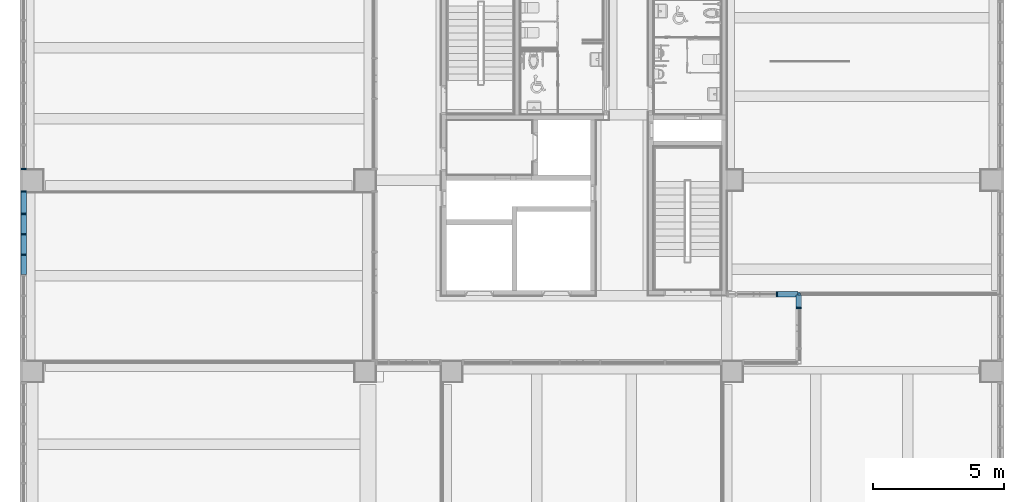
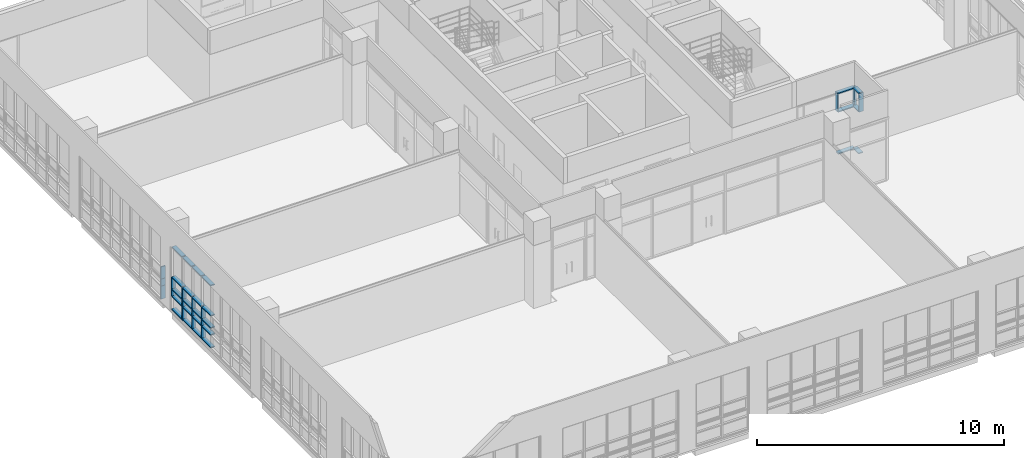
# One storey, part 18 of 74: 44 members, 4 elements without a shape of their own.
"""IFC2X3 building model written with IfcOpenShell, lengths in millimetres."""

from ifc_helpers import new_model, entity, si_unit, converted_unit, derived_unit, direction, frame, origin, origin_2d_with_axis, place, context, subcontext, project, spatial, rectangle, extrude, source, transform, mapped, material, type_object, type_shapes, element, aggregate, save


model = new_model("IFC2X3")

# Units and contexts
model_context = context("Model", 3, precision=0.01, world=origin(), true_north=direction((6.123031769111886e-17, 1.0)))
body_context = subcontext(model_context, "Body", "Model", "MODEL_VIEW")
ifc_project = project(units=[si_unit("LENGTHUNIT", "METRE", prefix="MILLI"), si_unit("AREAUNIT", "SQUARE_METRE"), si_unit("VOLUMEUNIT", "CUBIC_METRE"), converted_unit("PLANEANGLEUNIT", "DEGREE", entity("IfcRatioMeasure", 0.017453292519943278), si_unit("PLANEANGLEUNIT", "RADIAN"), dimensions=[0, 0, 0, 0, 0, 0, 0]), si_unit("MASSUNIT", "GRAM", prefix="KILO"), derived_unit("MASSDENSITYUNIT", [(si_unit("MASSUNIT", "GRAM", prefix="KILO"), 1), (si_unit("LENGTHUNIT", "METRE"), -3)]), derived_unit("MOMENTOFINERTIAUNIT", [(si_unit("LENGTHUNIT", "METRE"), 4)]), si_unit("TIMEUNIT", "SECOND"), si_unit("FREQUENCYUNIT", "HERTZ"), si_unit("THERMODYNAMICTEMPERATUREUNIT", "DEGREE_CELSIUS"), derived_unit("THERMALTRANSMITTANCEUNIT", [(si_unit("MASSUNIT", "GRAM", prefix="KILO"), 1), (si_unit("THERMODYNAMICTEMPERATUREUNIT", "KELVIN"), -1), (si_unit("TIMEUNIT", "SECOND"), -3)]), derived_unit("VOLUMETRICFLOWRATEUNIT", [(si_unit("LENGTHUNIT", "METRE"), 3), (si_unit("TIMEUNIT", "SECOND"), -1)]), derived_unit("MASSFLOWRATEUNIT", [(si_unit("MASSUNIT", "GRAM", prefix="KILO"), 1), (si_unit("TIMEUNIT", "SECOND"), -1)]), derived_unit("ROTATIONALFREQUENCYUNIT", [(si_unit("TIMEUNIT", "SECOND"), -1)]), si_unit("ELECTRICCURRENTUNIT", "AMPERE"), si_unit("ELECTRICVOLTAGEUNIT", "VOLT"), si_unit("POWERUNIT", "WATT"), si_unit("FORCEUNIT", "NEWTON", prefix="KILO"), si_unit("ILLUMINANCEUNIT", "LUX"), si_unit("LUMINOUSFLUXUNIT", "LUMEN"), si_unit("LUMINOUSINTENSITYUNIT", "CANDELA"), derived_unit("USERDEFINED", [(si_unit("MASSUNIT", "GRAM", prefix="KILO"), -1), (si_unit("LENGTHUNIT", "METRE"), -2), (si_unit("TIMEUNIT", "SECOND"), 3), (si_unit("LUMINOUSFLUXUNIT", "LUMEN"), 1)]), derived_unit("SOUNDPOWERUNIT", [(si_unit("MASSUNIT", "GRAM", prefix="KILO"), 1), (si_unit("LENGTHUNIT", "METRE"), 2), (si_unit("TIMEUNIT", "SECOND"), -3)]), derived_unit("SOUNDPRESSUREUNIT", [(si_unit("MASSUNIT", "GRAM", prefix="KILO"), 1), (si_unit("LENGTHUNIT", "METRE"), -1), (si_unit("TIMEUNIT", "SECOND"), -2)]), derived_unit("LINEARVELOCITYUNIT", [(si_unit("LENGTHUNIT", "METRE"), 1), (si_unit("TIMEUNIT", "SECOND"), -1)]), si_unit("PRESSUREUNIT", "PASCAL"), derived_unit("USERDEFINED", [(si_unit("LENGTHUNIT", "METRE"), -2), (si_unit("MASSUNIT", "GRAM", prefix="KILO"), 1), (si_unit("TIMEUNIT", "SECOND"), -2)]), derived_unit("LINEARFORCEUNIT", [(si_unit("MASSUNIT", "GRAM", prefix="KILO"), 1), (si_unit("LENGTHUNIT", "METRE"), 1), (si_unit("TIMEUNIT", "SECOND"), -2), (si_unit("LENGTHUNIT", "METRE"), -1)]), derived_unit("PLANARFORCEUNIT", [(si_unit("MASSUNIT", "GRAM", prefix="KILO"), 1), (si_unit("LENGTHUNIT", "METRE"), 1), (si_unit("TIMEUNIT", "SECOND"), -2), (si_unit("LENGTHUNIT", "METRE"), -2)])], contexts=[model_context])

# Site, building, storey
site_placement = place(None, frame((-14167.972527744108, -657.2125860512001, 0.0)))
site = spatial("IfcSite", under=ifc_project, at=site_placement, Name="Default", CompositionType="ELEMENT")
building_placement = place(site_placement, origin())
building = spatial("IfcBuilding", under=site, at=building_placement, Name="Sample Building", CompositionType="ELEMENT")
storey_placement = place(building_placement, frame((0.0, 0.0, 4800.0)))
storey = spatial("IfcBuildingStorey", under=building, at=storey_placement, Name="지상 2층", CompositionType="ELEMENT", Elevation=4800.000000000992)

# Curtain wall, member
curtain_wall_type = type_object("IfcCurtainWallType", Name="커튼월:CW112-스테인리스 스틸 커튼월", PredefinedType="NOTDEFINED")
curtain_wall_1_placement = place(storey_placement, frame((0.0, 0.0, -4800.0)))
curtain_wall_1 = element("IfcCurtainWall", 1, at=curtain_wall_1_placement, inside=storey, type_object=curtain_wall_type, Name="커튼월:CW112-스테인리스 스틸 커튼월", ObjectType="커튼월:CW112-스테인리스 스틸 커튼월")
ifc_material = material(Name="<Unnamed>")
member_type_1 = type_object("IfcMemberType", Name="직사각형 멀리언:CW200-직사각형 멀리언 50x200mm", PredefinedType="MULLION", material=ifc_material)
shared_shape_1 = source(origin(), body_context, "Body", "SweptSolid", [
    extrude(rectangle(XDim=200.0, YDim=50.0, at=origin_2d_with_axis()), frame((-25.0, 0.0, -650.0), z_axis=(0.0, 0.0, 1.0), x_axis=(0.0, -1.0, 0.0)), (0.0, 0.0, 1.0), 650.0000000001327),
])
type_shapes(member_type_1, [shared_shape_1])
member_1_placement = place(curtain_wall_1_placement, frame((14129.839654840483, 20357.19489124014, 4880.0), z_axis=(0.0, 0.0, -1.0), x_axis=(0.0, -1.0, 0.0)))
member_1 = element("IfcMember", 2, at=member_1_placement, type_object=member_type_1, material=ifc_material, Name="직사각형 멀리언:CW200-직사각형 멀리언 50x200mm", ObjectType="직사각형 멀리언:CW200-직사각형 멀리언 50x200mm", context=body_context, shape_type="MappedRepresentation", body=[
    mapped(shared_shape_1, transform((0.0, 0.0, 0.0), scale=1.0)),
])

# Curtain wall, members
curtain_wall_2_placement = place(storey_placement, frame((0.0, 0.0, -4800.0)))
curtain_wall_2 = element("IfcCurtainWall", 3, at=curtain_wall_2_placement, inside=storey, type_object=curtain_wall_type, Name="커튼월:CW112-스테인리스 스틸 커튼월", ObjectType="커튼월:CW112-스테인리스 스틸 커튼월")
member_type_2 = type_object("IfcMemberType", Name="직사각형 멀리언:CW200-직사각형 멀리언 50x200mm", PredefinedType="MULLION", material=ifc_material)
shared_shape_2 = source(origin(), body_context, "Body", "SweptSolid", [
    extrude(rectangle(XDim=200.0, YDim=50.0, at=origin_2d_with_axis()), frame((0.0, 0.0, -650.0), z_axis=(0.0, 0.0, 1.0), x_axis=(0.0, -1.0, 0.0)), (0.0, 0.0, 1.0), 650.0000000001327),
])
type_shapes(member_type_2, [shared_shape_2])
member_2_placement = place(curtain_wall_2_placement, frame((14130.472570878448, 18675.962275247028, 4880.0), z_axis=(0.0, 0.0, -1.0), x_axis=(0.0, -1.0, 0.0)))
member_2 = element("IfcMember", 4, at=member_2_placement, type_object=member_type_2, material=ifc_material, Name="직사각형 멀리언:CW200-직사각형 멀리언 50x200mm", ObjectType="직사각형 멀리언:CW200-직사각형 멀리언 50x200mm", context=body_context, shape_type="MappedRepresentation", body=[
    mapped(shared_shape_2, transform((0.0, 0.0, 0.0), scale=1.0)),
])
member_3_placement = place(curtain_wall_2_placement, frame((14130.472570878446, 17894.712275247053, 4880.0), z_axis=(0.0, 0.0, -1.0), x_axis=(0.0, -1.0, 0.0)))
member_3 = element("IfcMember", 5, at=member_3_placement, type_object=member_type_2, material=ifc_material, Name="직사각형 멀리언:CW200-직사각형 멀리언 50x200mm", ObjectType="직사각형 멀리언:CW200-직사각형 멀리언 50x200mm", context=body_context, shape_type="MappedRepresentation", body=[
    mapped(shared_shape_2, transform((0.0, 0.0, 0.0), scale=1.0)),
])
member_4_placement = place(curtain_wall_2_placement, frame((14130.472570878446, 17113.46227524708, 4880.0), z_axis=(0.0, 0.0, -1.0), x_axis=(0.0, -1.0, 0.0)))
member_4 = element("IfcMember", 6, at=member_4_placement, type_object=member_type_2, material=ifc_material, Name="직사각형 멀리언:CW200-직사각형 멀리언 50x200mm", ObjectType="직사각형 멀리언:CW200-직사각형 멀리언 50x200mm", context=body_context, shape_type="MappedRepresentation", body=[
    mapped(shared_shape_2, transform((0.0, 0.0, 0.0), scale=1.0)),
])
member_type_3 = type_object("IfcMemberType", Name="직사각형 멀리언:CW200-직사각형 멀리언 50x200mm", PredefinedType="MULLION", material=ifc_material)
shared_shape_3 = source(origin(), body_context, "Body", "SweptSolid", [
    extrude(rectangle(XDim=200.0, YDim=50.0, at=origin_2d_with_axis()), frame((-25.0, 0.0, -600.0), z_axis=(0.0, 0.0, 1.0), x_axis=(0.0, -1.0, 0.0)), (0.0, 0.0, 1.0), 600.0),
])
type_shapes(member_type_3, [shared_shape_3])
member_5_placement = place(curtain_wall_2_placement, frame((14130.472570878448, 19557.212307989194, 6480.0), z_axis=(0.0, 0.0, 1.0), x_axis=(0.0, 1.0, 0.0)))
member_5 = element("IfcMember", 7, at=member_5_placement, type_object=member_type_3, material=ifc_material, Name="직사각형 멀리언:CW200-직사각형 멀리언 50x200mm", ObjectType="직사각형 멀리언:CW200-직사각형 멀리언 50x200mm", context=body_context, shape_type="MappedRepresentation", body=[
    mapped(shared_shape_3, transform((0.0, 0.0, 0.0), scale=1.0)),
])

# Member
member_type_4 = type_object("IfcMemberType", Name="직사각형 멀리언:CW200-직사각형 멀리언 50x200mm", PredefinedType="MULLION", material=ifc_material)
shared_shape_4 = source(origin(), body_context, "Body", "SweptSolid", [
    extrude(rectangle(XDim=200.0, YDim=50.0, at=origin_2d_with_axis()), frame((-25.0, 0.0, -600.0), z_axis=(0.0, 0.0, 1.0), x_axis=(0.0, -1.0, 0.0)), (0.0, 0.0, 1.0), 600.0),
])
type_shapes(member_type_4, [shared_shape_4])
member_6_placement = place(curtain_wall_1_placement, frame((14129.839654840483, 20357.19489124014, 5880.0), z_axis=(0.0, 0.0, -1.0), x_axis=(0.0, -1.0, 0.0)))
member_6 = element("IfcMember", 8, at=member_6_placement, type_object=member_type_4, material=ifc_material, Name="직사각형 멀리언:CW200-직사각형 멀리언 50x200mm", ObjectType="직사각형 멀리언:CW200-직사각형 멀리언 50x200mm", context=body_context, shape_type="MappedRepresentation", body=[
    mapped(shared_shape_4, transform((0.0, 0.0, 0.0), scale=1.0)),
])

member_type_5 = type_object("IfcMemberType", Name="직사각형 멀리언:CW200-직사각형 멀리언 50x200mm", PredefinedType="MULLION", material=ifc_material)
shared_shape_5 = source(origin(), body_context, "Body", "SweptSolid", [
    extrude(rectangle(XDim=200.0, YDim=50.0, at=origin_2d_with_axis()), frame((-25.0, 0.0, -350.0), z_axis=(0.0, 0.0, 1.0), x_axis=(0.0, -1.0, 0.0)), (0.0, 0.0, 1.0), 349.9999999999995),
])
type_shapes(member_type_5, [shared_shape_5])
member_7_placement = place(curtain_wall_2_placement, frame((14130.472570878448, 19557.212307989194, 5880.0), z_axis=(0.0, 0.0, 1.0), x_axis=(0.0, 1.0, 0.0)))
member_7 = element("IfcMember", 9, at=member_7_placement, type_object=member_type_5, material=ifc_material, Name="직사각형 멀리언:CW200-직사각형 멀리언 50x200mm", ObjectType="직사각형 멀리언:CW200-직사각형 멀리언 50x200mm", context=body_context, shape_type="MappedRepresentation", body=[
    mapped(shared_shape_5, transform((0.0, 0.0, 0.0), scale=1.0)),
])

member_type_6 = type_object("IfcMemberType", Name="직사각형 멀리언:CW200-직사각형 멀리언 50x200mm", PredefinedType="MULLION", material=ifc_material)
shared_shape_6 = source(origin(), body_context, "Body", "SweptSolid", [
    extrude(rectangle(XDim=200.0, YDim=50.0, at=origin_2d_with_axis()), frame((0.0, 0.0, -600.0), z_axis=(0.0, 0.0, 1.0), x_axis=(0.0, -1.0, 0.0)), (0.0, 0.0, 1.0), 600.0),
])
type_shapes(member_type_6, [shared_shape_6])
member_8_placement = place(curtain_wall_2_placement, frame((14130.472570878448, 18675.962275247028, 5880.0), z_axis=(0.0, 0.0, -1.0), x_axis=(0.0, -1.0, 0.0)))
member_8 = element("IfcMember", 10, at=member_8_placement, type_object=member_type_6, material=ifc_material, Name="직사각형 멀리언:CW200-직사각형 멀리언 50x200mm", ObjectType="직사각형 멀리언:CW200-직사각형 멀리언 50x200mm", context=body_context, shape_type="MappedRepresentation", body=[
    mapped(shared_shape_6, transform((0.0, 0.0, 0.0), scale=1.0)),
])

member_9_placement = place(curtain_wall_2_placement, frame((14130.472570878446, 17894.712275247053, 5880.0), z_axis=(0.0, 0.0, -1.0), x_axis=(0.0, -1.0, 0.0)))
member_9 = element("IfcMember", 11, at=member_9_placement, type_object=member_type_6, material=ifc_material, Name="직사각형 멀리언:CW200-직사각형 멀리언 50x200mm", ObjectType="직사각형 멀리언:CW200-직사각형 멀리언 50x200mm", context=body_context, shape_type="MappedRepresentation", body=[
    mapped(shared_shape_6, transform((0.0, 0.0, 0.0), scale=1.0)),
])

member_10_placement = place(curtain_wall_2_placement, frame((14130.472570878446, 17113.46227524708, 5880.0), z_axis=(0.0, 0.0, -1.0), x_axis=(0.0, -1.0, 0.0)))
member_10 = element("IfcMember", 12, at=member_10_placement, type_object=member_type_6, material=ifc_material, Name="직사각형 멀리언:CW200-직사각형 멀리언 50x200mm", ObjectType="직사각형 멀리언:CW200-직사각형 멀리언 50x200mm", context=body_context, shape_type="MappedRepresentation", body=[
    mapped(shared_shape_6, transform((0.0, 0.0, 0.0), scale=1.0)),
])

member_type_7 = type_object("IfcMemberType", Name="직사각형 멀리언:CW200-직사각형 멀리언 50x200mm", PredefinedType="MULLION", material=ifc_material)
shared_shape_7 = source(origin(), body_context, "Body", "SweptSolid", [
    extrude(rectangle(XDim=200.0, YDim=50.0, at=origin_2d_with_axis()), frame((-25.0, 0.0, -350.0), z_axis=(0.0, 0.0, 1.0), x_axis=(0.0, -1.0, 0.0)), (0.0, 0.0, 1.0), 349.9999999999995),
])
type_shapes(member_type_7, [shared_shape_7])
member_11_placement = place(curtain_wall_1_placement, frame((14129.839654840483, 20357.19489124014, 5530.0), z_axis=(0.0, 0.0, -1.0), x_axis=(0.0, -1.0, 0.0)))
member_11 = element("IfcMember", 13, at=member_11_placement, type_object=member_type_7, material=ifc_material, Name="직사각형 멀리언:CW200-직사각형 멀리언 50x200mm", ObjectType="직사각형 멀리언:CW200-직사각형 멀리언 50x200mm", context=body_context, shape_type="MappedRepresentation", body=[
    mapped(shared_shape_7, transform((0.0, 0.0, 0.0), scale=1.0)),
])

aggregate(curtain_wall_1, [member_1, member_6, member_11])

member_type_8 = type_object("IfcMemberType", Name="직사각형 멀리언:CW200-직사각형 멀리언 50x200mm", PredefinedType="MULLION", material=ifc_material)
shared_shape_8 = source(origin(), body_context, "Body", "SweptSolid", [
    extrude(rectangle(XDim=200.0, YDim=50.0, at=origin_2d_with_axis()), frame((0.0, 0.0, -350.0), z_axis=(0.0, 0.0, 1.0), x_axis=(0.0, -1.0, 0.0)), (0.0, 0.0, 1.0), 349.9999999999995),
])
type_shapes(member_type_8, [shared_shape_8])
member_12_placement = place(curtain_wall_2_placement, frame((14130.472570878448, 18675.962275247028, 5530.0), z_axis=(0.0, 0.0, -1.0), x_axis=(0.0, -1.0, 0.0)))
member_12 = element("IfcMember", 14, at=member_12_placement, type_object=member_type_8, material=ifc_material, Name="직사각형 멀리언:CW200-직사각형 멀리언 50x200mm", ObjectType="직사각형 멀리언:CW200-직사각형 멀리언 50x200mm", context=body_context, shape_type="MappedRepresentation", body=[
    mapped(shared_shape_8, transform((0.0, 0.0, 0.0), scale=1.0)),
])

member_13_placement = place(curtain_wall_2_placement, frame((14130.472570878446, 17894.712275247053, 5530.0), z_axis=(0.0, 0.0, -1.0), x_axis=(0.0, -1.0, 0.0)))
member_13 = element("IfcMember", 15, at=member_13_placement, type_object=member_type_8, material=ifc_material, Name="직사각형 멀리언:CW200-직사각형 멀리언 50x200mm", ObjectType="직사각형 멀리언:CW200-직사각형 멀리언 50x200mm", context=body_context, shape_type="MappedRepresentation", body=[
    mapped(shared_shape_8, transform((0.0, 0.0, 0.0), scale=1.0)),
])

member_14_placement = place(curtain_wall_2_placement, frame((14130.472570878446, 17113.46227524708, 5530.0), z_axis=(0.0, 0.0, -1.0), x_axis=(0.0, -1.0, 0.0)))
member_14 = element("IfcMember", 16, at=member_14_placement, type_object=member_type_8, material=ifc_material, Name="직사각형 멀리언:CW200-직사각형 멀리언 50x200mm", ObjectType="직사각형 멀리언:CW200-직사각형 멀리언 50x200mm", context=body_context, shape_type="MappedRepresentation", body=[
    mapped(shared_shape_8, transform((0.0, 0.0, 0.0), scale=1.0)),
])

member_type_9 = type_object("IfcMemberType", Name="직사각형 멀리언:CW200-직사각형 멀리언 50x200mm", PredefinedType="MULLION", material=ifc_material)
shared_shape_9 = source(origin(), body_context, "Body", "SweptSolid", [
    extrude(rectangle(XDim=200.0, YDim=50.0, at=origin_2d_with_axis()), frame((-25.0, 0.0, -806.2500327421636), z_axis=(0.0, 0.0, 1.0), x_axis=(0.0, -1.0, 0.0)), (0.0, 0.0, 1.0), 806.2500327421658),
])
type_shapes(member_type_9, [shared_shape_9])
member_15_placement = place(curtain_wall_2_placement, frame((14130.472570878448, 19507.21230798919, 4880.0), z_axis=(0.0, 1.0, 0.0), x_axis=(0.0, 0.0, -1.0)))
member_15 = element("IfcMember", 17, at=member_15_placement, type_object=member_type_9, material=ifc_material, Name="직사각형 멀리언:CW200-직사각형 멀리언 50x200mm", ObjectType="직사각형 멀리언:CW200-직사각형 멀리언 50x200mm", context=body_context, shape_type="MappedRepresentation", body=[
    mapped(shared_shape_9, transform((0.0, 0.0, 0.0), scale=1.0)),
])

member_type_10 = type_object("IfcMemberType", Name="직사각형 멀리언:CW200-직사각형 멀리언 50x200mm", PredefinedType="MULLION", material=ifc_material)
shared_shape_10 = source(origin(), body_context, "Body", "SweptSolid", [
    extrude(rectangle(XDim=200.0, YDim=50.0, at=origin_2d_with_axis()), frame((-25.0, 0.0, -806.2500327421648), z_axis=(0.0, 0.0, 1.0), x_axis=(0.0, -1.0, 0.0)), (0.0, 0.0, 1.0), 806.2500327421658),
])
type_shapes(member_type_10, [shared_shape_10])
member_16_placement = place(curtain_wall_2_placement, frame((14130.472570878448, 18700.962275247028, 8000.0), z_axis=(0.0, -1.0, 0.0), x_axis=(0.0, 0.0, 1.0)))
member_16 = element("IfcMember", 18, at=member_16_placement, type_object=member_type_10, material=ifc_material, Name="직사각형 멀리언:CW200-직사각형 멀리언 50x200mm", ObjectType="직사각형 멀리언:CW200-직사각형 멀리언 50x200mm", context=body_context, shape_type="MappedRepresentation", body=[
    mapped(shared_shape_10, transform((0.0, 0.0, 0.0), scale=1.0)),
])

member_type_11 = type_object("IfcMemberType", Name="직사각형 멀리언:CW200-직사각형 멀리언 50x200mm", PredefinedType="MULLION", material=ifc_material)
shared_shape_11 = source(origin(), body_context, "Body", "SweptSolid", [
    extrude(rectangle(XDim=200.0, YDim=50.0, at=origin_2d_with_axis()), frame((-25.0, 0.0, -731.2499999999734), z_axis=(0.0, 0.0, 1.0), x_axis=(0.0, -1.0, 0.0)), (0.0, 0.0, 1.0), 731.2499999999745),
])
type_shapes(member_type_11, [shared_shape_11])
member_17_placement = place(curtain_wall_2_placement, frame((14130.472570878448, 18650.962275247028, 4880.0), z_axis=(0.0, 1.0, 0.0), x_axis=(0.0, 0.0, -1.0)))
member_17 = element("IfcMember", 19, at=member_17_placement, type_object=member_type_11, material=ifc_material, Name="직사각형 멀리언:CW200-직사각형 멀리언 50x200mm", ObjectType="직사각형 멀리언:CW200-직사각형 멀리언 50x200mm", context=body_context, shape_type="MappedRepresentation", body=[
    mapped(shared_shape_11, transform((0.0, 0.0, 0.0), scale=1.0)),
])

member_18_placement = place(curtain_wall_2_placement, frame((14130.472570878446, 17869.712275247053, 4880.0), z_axis=(0.0, 1.0, 0.0), x_axis=(0.0, 0.0, -1.0)))
member_18 = element("IfcMember", 20, at=member_18_placement, type_object=member_type_11, material=ifc_material, Name="직사각형 멀리언:CW200-직사각형 멀리언 50x200mm", ObjectType="직사각형 멀리언:CW200-직사각형 멀리언 50x200mm", context=body_context, shape_type="MappedRepresentation", body=[
    mapped(shared_shape_11, transform((0.0, 0.0, 0.0), scale=1.0)),
])

member_19_placement = place(curtain_wall_2_placement, frame((14130.472570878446, 17088.462275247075, 4880.0), z_axis=(0.0, 1.0, 0.0), x_axis=(0.0, 0.0, -1.0)))
member_19 = element("IfcMember", 21, at=member_19_placement, type_object=member_type_11, material=ifc_material, Name="직사각형 멀리언:CW200-직사각형 멀리언 50x200mm", ObjectType="직사각형 멀리언:CW200-직사각형 멀리언 50x200mm", context=body_context, shape_type="MappedRepresentation", body=[
    mapped(shared_shape_11, transform((0.0, 0.0, 0.0), scale=1.0)),
])

member_type_12 = type_object("IfcMemberType", Name="직사각형 멀리언:CW200-직사각형 멀리언 50x200mm", PredefinedType="MULLION", material=ifc_material)
shared_shape_12 = source(origin(), body_context, "Body", "SweptSolid", [
    extrude(rectangle(XDim=200.0, YDim=50.0, at=origin_2d_with_axis()), frame((-25.0, 0.0, -731.2499999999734), z_axis=(0.0, 0.0, 1.0), x_axis=(0.0, -1.0, 0.0)), (0.0, 0.0, 1.0), 731.2499999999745),
])
type_shapes(member_type_12, [shared_shape_12])
member_20_placement = place(curtain_wall_2_placement, frame((14130.472570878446, 17919.712275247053, 8000.0), z_axis=(0.0, -1.0, 0.0), x_axis=(0.0, 0.0, 1.0)))
member_20 = element("IfcMember", 22, at=member_20_placement, type_object=member_type_12, material=ifc_material, Name="직사각형 멀리언:CW200-직사각형 멀리언 50x200mm", ObjectType="직사각형 멀리언:CW200-직사각형 멀리언 50x200mm", context=body_context, shape_type="MappedRepresentation", body=[
    mapped(shared_shape_12, transform((0.0, 0.0, 0.0), scale=1.0)),
])

member_21_placement = place(curtain_wall_2_placement, frame((14130.472570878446, 17138.46227524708, 8000.0), z_axis=(0.0, -1.0, 0.0), x_axis=(0.0, 0.0, 1.0)))
member_21 = element("IfcMember", 23, at=member_21_placement, type_object=member_type_12, material=ifc_material, Name="직사각형 멀리언:CW200-직사각형 멀리언 50x200mm", ObjectType="직사각형 멀리언:CW200-직사각형 멀리언 50x200mm", context=body_context, shape_type="MappedRepresentation", body=[
    mapped(shared_shape_12, transform((0.0, 0.0, 0.0), scale=1.0)),
])

member_22_placement = place(curtain_wall_2_placement, frame((14130.472570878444, 16357.212275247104, 8000.0), z_axis=(0.0, -1.0, 0.0), x_axis=(0.0, 0.0, 1.0)))
member_22 = element("IfcMember", 24, at=member_22_placement, type_object=member_type_12, material=ifc_material, Name="직사각형 멀리언:CW200-직사각형 멀리언 50x200mm", ObjectType="직사각형 멀리언:CW200-직사각형 멀리언 50x200mm", context=body_context, shape_type="MappedRepresentation", body=[
    mapped(shared_shape_12, transform((0.0, 0.0, 0.0), scale=1.0)),
])

member_type_13 = type_object("IfcMemberType", Name="직사각형 멀리언:CW200-직사각형 멀리언 50x200mm", PredefinedType="MULLION", material=ifc_material)
shared_shape_13 = source(origin(), body_context, "Body", "SweptSolid", [
    extrude(rectangle(XDim=200.0, YDim=50.0, at=origin_2d_with_axis()), frame((0.0, 0.0, -806.2500327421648), z_axis=(0.0, 0.0, 1.0), x_axis=(0.0, -1.0, 0.0)), (0.0, 0.0, 1.0), 806.2500327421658),
])
type_shapes(member_type_13, [shared_shape_13])
member_23_placement = place(curtain_wall_2_placement, frame((14130.472570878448, 18700.962275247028, 6480.0), z_axis=(0.0, -1.0, 0.0), x_axis=(0.0, 0.0, 1.0)))
member_23 = element("IfcMember", 25, at=member_23_placement, type_object=member_type_13, material=ifc_material, Name="직사각형 멀리언:CW200-직사각형 멀리언 50x200mm", ObjectType="직사각형 멀리언:CW200-직사각형 멀리언 50x200mm", context=body_context, shape_type="MappedRepresentation", body=[
    mapped(shared_shape_13, transform((0.0, 0.0, 0.0), scale=1.0)),
])

member_24_placement = place(curtain_wall_2_placement, frame((14130.472570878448, 18700.962275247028, 5880.0), z_axis=(0.0, -1.0, 0.0), x_axis=(0.0, 0.0, 1.0)))
member_24 = element("IfcMember", 26, at=member_24_placement, type_object=member_type_13, material=ifc_material, Name="직사각형 멀리언:CW200-직사각형 멀리언 50x200mm", ObjectType="직사각형 멀리언:CW200-직사각형 멀리언 50x200mm", context=body_context, shape_type="MappedRepresentation", body=[
    mapped(shared_shape_13, transform((0.0, 0.0, 0.0), scale=1.0)),
])

member_25_placement = place(curtain_wall_2_placement, frame((14130.472570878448, 18700.962275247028, 5530.0), z_axis=(0.0, -1.0, 0.0), x_axis=(0.0, 0.0, 1.0)))
member_25 = element("IfcMember", 27, at=member_25_placement, type_object=member_type_13, material=ifc_material, Name="직사각형 멀리언:CW200-직사각형 멀리언 50x200mm", ObjectType="직사각형 멀리언:CW200-직사각형 멀리언 50x200mm", context=body_context, shape_type="MappedRepresentation", body=[
    mapped(shared_shape_13, transform((0.0, 0.0, 0.0), scale=1.0)),
])

member_type_14 = type_object("IfcMemberType", Name="직사각형 멀리언:CW200-직사각형 멀리언 50x200mm", PredefinedType="MULLION", material=ifc_material)
shared_shape_14 = source(origin(), body_context, "Body", "SweptSolid", [
    extrude(rectangle(XDim=200.0, YDim=50.0, at=origin_2d_with_axis()), frame((0.0, 0.0, -731.2499999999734), z_axis=(0.0, 0.0, 1.0), x_axis=(0.0, -1.0, 0.0)), (0.0, 0.0, 1.0), 731.2499999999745),
])
type_shapes(member_type_14, [shared_shape_14])
member_26_placement = place(curtain_wall_2_placement, frame((14130.472570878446, 17919.712275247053, 6480.0), z_axis=(0.0, -1.0, 0.0), x_axis=(0.0, 0.0, 1.0)))
member_26 = element("IfcMember", 28, at=member_26_placement, type_object=member_type_14, material=ifc_material, Name="직사각형 멀리언:CW200-직사각형 멀리언 50x200mm", ObjectType="직사각형 멀리언:CW200-직사각형 멀리언 50x200mm", context=body_context, shape_type="MappedRepresentation", body=[
    mapped(shared_shape_14, transform((0.0, 0.0, 0.0), scale=1.0)),
])

member_27_placement = place(curtain_wall_2_placement, frame((14130.472570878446, 17138.46227524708, 6480.0), z_axis=(0.0, -1.0, 0.0), x_axis=(0.0, 0.0, 1.0)))
member_27 = element("IfcMember", 29, at=member_27_placement, type_object=member_type_14, material=ifc_material, Name="직사각형 멀리언:CW200-직사각형 멀리언 50x200mm", ObjectType="직사각형 멀리언:CW200-직사각형 멀리언 50x200mm", context=body_context, shape_type="MappedRepresentation", body=[
    mapped(shared_shape_14, transform((0.0, 0.0, 0.0), scale=1.0)),
])

member_28_placement = place(curtain_wall_2_placement, frame((14130.472570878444, 16357.212275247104, 6480.0), z_axis=(0.0, -1.0, 0.0), x_axis=(0.0, 0.0, 1.0)))
member_28 = element("IfcMember", 30, at=member_28_placement, type_object=member_type_14, material=ifc_material, Name="직사각형 멀리언:CW200-직사각형 멀리언 50x200mm", ObjectType="직사각형 멀리언:CW200-직사각형 멀리언 50x200mm", context=body_context, shape_type="MappedRepresentation", body=[
    mapped(shared_shape_14, transform((0.0, 0.0, 0.0), scale=1.0)),
])

member_29_placement = place(curtain_wall_2_placement, frame((14130.472570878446, 17919.712275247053, 5880.0), z_axis=(0.0, -1.0, 0.0), x_axis=(0.0, 0.0, 1.0)))
member_29 = element("IfcMember", 31, at=member_29_placement, type_object=member_type_14, material=ifc_material, Name="직사각형 멀리언:CW200-직사각형 멀리언 50x200mm", ObjectType="직사각형 멀리언:CW200-직사각형 멀리언 50x200mm", context=body_context, shape_type="MappedRepresentation", body=[
    mapped(shared_shape_14, transform((0.0, 0.0, 0.0), scale=1.0)),
])

member_30_placement = place(curtain_wall_2_placement, frame((14130.472570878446, 17138.46227524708, 5880.0), z_axis=(0.0, -1.0, 0.0), x_axis=(0.0, 0.0, 1.0)))
member_30 = element("IfcMember", 32, at=member_30_placement, type_object=member_type_14, material=ifc_material, Name="직사각형 멀리언:CW200-직사각형 멀리언 50x200mm", ObjectType="직사각형 멀리언:CW200-직사각형 멀리언 50x200mm", context=body_context, shape_type="MappedRepresentation", body=[
    mapped(shared_shape_14, transform((0.0, 0.0, 0.0), scale=1.0)),
])

member_31_placement = place(curtain_wall_2_placement, frame((14130.472570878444, 16357.212275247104, 5880.0), z_axis=(0.0, -1.0, 0.0), x_axis=(0.0, 0.0, 1.0)))
member_31 = element("IfcMember", 33, at=member_31_placement, type_object=member_type_14, material=ifc_material, Name="직사각형 멀리언:CW200-직사각형 멀리언 50x200mm", ObjectType="직사각형 멀리언:CW200-직사각형 멀리언 50x200mm", context=body_context, shape_type="MappedRepresentation", body=[
    mapped(shared_shape_14, transform((0.0, 0.0, 0.0), scale=1.0)),
])

member_32_placement = place(curtain_wall_2_placement, frame((14130.472570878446, 17919.712275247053, 5530.0), z_axis=(0.0, -1.0, 0.0), x_axis=(0.0, 0.0, 1.0)))
member_32 = element("IfcMember", 34, at=member_32_placement, type_object=member_type_14, material=ifc_material, Name="직사각형 멀리언:CW200-직사각형 멀리언 50x200mm", ObjectType="직사각형 멀리언:CW200-직사각형 멀리언 50x200mm", context=body_context, shape_type="MappedRepresentation", body=[
    mapped(shared_shape_14, transform((0.0, 0.0, 0.0), scale=1.0)),
])

member_33_placement = place(curtain_wall_2_placement, frame((14130.472570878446, 17138.46227524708, 5530.0), z_axis=(0.0, -1.0, 0.0), x_axis=(0.0, 0.0, 1.0)))
member_33 = element("IfcMember", 35, at=member_33_placement, type_object=member_type_14, material=ifc_material, Name="직사각형 멀리언:CW200-직사각형 멀리언 50x200mm", ObjectType="직사각형 멀리언:CW200-직사각형 멀리언 50x200mm", context=body_context, shape_type="MappedRepresentation", body=[
    mapped(shared_shape_14, transform((0.0, 0.0, 0.0), scale=1.0)),
])

member_34_placement = place(curtain_wall_2_placement, frame((14130.472570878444, 16357.212275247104, 5530.0), z_axis=(0.0, -1.0, 0.0), x_axis=(0.0, 0.0, 1.0)))
member_34 = element("IfcMember", 36, at=member_34_placement, type_object=member_type_14, material=ifc_material, Name="직사각형 멀리언:CW200-직사각형 멀리언 50x200mm", ObjectType="직사각형 멀리언:CW200-직사각형 멀리언 50x200mm", context=body_context, shape_type="MappedRepresentation", body=[
    mapped(shared_shape_14, transform((0.0, 0.0, 0.0), scale=1.0)),
])

aggregate(curtain_wall_2, [member_15, member_16, member_17, member_2, member_20, member_18, member_3, member_21, member_19, member_4, member_22, member_5, member_23, member_26, member_27, member_28, member_7, member_24, member_29, member_30, member_31, member_8, member_9, member_10, member_25, member_32, member_33, member_34, member_12, member_13, member_14])

# Curtain wall, members
curtain_wall_3_placement = place(storey_placement, frame((0.0, 0.0, -4800.0)))
curtain_wall_3 = element("IfcCurtainWall", 37, at=curtain_wall_3_placement, inside=storey, type_object=curtain_wall_type, Name="커튼월:CW112-스테인리스 스틸 커튼월", ObjectType="커튼월:CW112-스테인리스 스틸 커튼월")
member_type_15 = type_object("IfcMemberType", Name="직사각형 멀리언:CW200-직사각형 멀리언 50x200mm", PredefinedType="MULLION", material=ifc_material)
shared_shape_15 = source(origin(), body_context, "Body", "SweptSolid", [
    extrude(rectangle(XDim=200.0, YDim=50.0, at=origin_2d_with_axis()), frame((0.0, 0.0, -920.0), z_axis=(0.0, 0.0, 1.0), x_axis=(0.0, -1.0, 0.0)), (0.0, 0.0, 1.0), 920.0000000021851),
])
type_shapes(member_type_15, [shared_shape_15])
member_35_placement = place(curtain_wall_3_placement, frame((43717.972491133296, 15087.177678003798, 6980.0), z_axis=(0.0, 0.0, -1.0), x_axis=(0.0, 1.0, 0.0)))
member_35 = element("IfcMember", 38, at=member_35_placement, type_object=member_type_15, material=ifc_material, Name="직사각형 멀리언:CW200-직사각형 멀리언 50x200mm", ObjectType="직사각형 멀리언:CW200-직사각형 멀리언 50x200mm", context=body_context, shape_type="MappedRepresentation", body=[
    mapped(shared_shape_15, transform((0.0, 0.0, 0.0), scale=1.0)),
])
member_type_16 = type_object("IfcMemberType", Name="직사각형 멀리언:CW200-직사각형 멀리언 100 x 100mm", PredefinedType="MULLION", material=ifc_material)
shared_shape_16 = source(origin(), body_context, "Body", "SweptSolid", [
    extrude(rectangle(XDim=100.00000000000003, YDim=100.0, at=origin_2d_with_axis()), frame((-50.0, 0.0, -920.0), z_axis=(0.0, 0.0, 1.0), x_axis=(0.0, -1.0, 0.0)), (0.0, 0.0, 1.0), 920.0000000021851),
])
type_shapes(member_type_16, [shared_shape_16])
member_36_placement = place(curtain_wall_3_placement, frame((43717.972491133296, 15670.177678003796, 6980.0), z_axis=(0.0, 0.0, -1.0), x_axis=(0.0, 1.0, 0.0)))
member_36 = element("IfcMember", 39, at=member_36_placement, type_object=member_type_16, material=ifc_material, Name="직사각형 멀리언:CW200-직사각형 멀리언 100 x 100mm", ObjectType="직사각형 멀리언:CW200-직사각형 멀리언 100 x 100mm", context=body_context, shape_type="MappedRepresentation", body=[
    mapped(shared_shape_16, transform((0.0, 0.0, 0.0), scale=1.0)),
])
member_type_17 = type_object("IfcMemberType", Name="직사각형 멀리언:CW200-직사각형 멀리언 50x200mm", PredefinedType="MULLION", material=ifc_material)
shared_shape_17 = source(origin(), body_context, "Body", "SweptSolid", [
    extrude(rectangle(XDim=200.0, YDim=50.0, at=origin_2d_with_axis()), frame((-25.0, 0.0, -458.0), z_axis=(0.0, 0.0, 1.0), x_axis=(0.0, -1.0, 0.0)), (0.0, 0.0, 1.0), 457.99999999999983),
])
type_shapes(member_type_17, [shared_shape_17])
member_37_placement = place(curtain_wall_3_placement, frame((43717.972491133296, 15570.177678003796, 7900.0), z_axis=(0.0, 1.0, 0.0), x_axis=(0.0, 0.0, 1.0)))
member_37 = element("IfcMember", 40, at=member_37_placement, type_object=member_type_17, material=ifc_material, Name="직사각형 멀리언:CW200-직사각형 멀리언 50x200mm", ObjectType="직사각형 멀리언:CW200-직사각형 멀리언 50x200mm", context=body_context, shape_type="MappedRepresentation", body=[
    mapped(shared_shape_17, transform((0.0, 0.0, 0.0), scale=1.0)),
])
member_type_18 = type_object("IfcMemberType", Name="직사각형 멀리언:CW200-직사각형 멀리언 50x200mm", PredefinedType="MULLION", material=ifc_material)
shared_shape_18 = source(origin(), body_context, "Body", "SweptSolid", [
    extrude(rectangle(XDim=200.0, YDim=50.0, at=origin_2d_with_axis()), frame((-25.0, 0.0, -458.0), z_axis=(0.0, 0.0, 1.0), x_axis=(0.0, -1.0, 0.0)), (0.0, 0.0, 1.0), 457.99999999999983),
])
type_shapes(member_type_18, [shared_shape_18])
member_38_placement = place(curtain_wall_3_placement, frame((43717.972491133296, 15112.177678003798, 4880.0), z_axis=(0.0, -1.0, 0.0), x_axis=(0.0, 0.0, -1.0)))
member_38 = element("IfcMember", 41, at=member_38_placement, type_object=member_type_18, material=ifc_material, Name="직사각형 멀리언:CW200-직사각형 멀리언 50x200mm", ObjectType="직사각형 멀리언:CW200-직사각형 멀리언 50x200mm", context=body_context, shape_type="MappedRepresentation", body=[
    mapped(shared_shape_18, transform((0.0, 0.0, 0.0), scale=1.0)),
])
member_type_19 = type_object("IfcMemberType", Name="직사각형 멀리언:CW200-직사각형 멀리언 50x200mm", PredefinedType="MULLION", material=ifc_material)
shared_shape_19 = source(origin(), body_context, "Body", "SweptSolid", [
    extrude(rectangle(XDim=200.0, YDim=50.0, at=origin_2d_with_axis()), frame((0.0, 0.0, -458.0), z_axis=(0.0, 0.0, 1.0), x_axis=(0.0, -1.0, 0.0)), (0.0, 0.0, 1.0), 457.99999999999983),
])
type_shapes(member_type_19, [shared_shape_19])
member_39_placement = place(curtain_wall_3_placement, frame((43717.972491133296, 15570.177678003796, 6980.0), z_axis=(0.0, 1.0, 0.0), x_axis=(0.0, 0.0, 1.0)))
member_39 = element("IfcMember", 42, at=member_39_placement, type_object=member_type_19, material=ifc_material, Name="직사각형 멀리언:CW200-직사각형 멀리언 50x200mm", ObjectType="직사각형 멀리언:CW200-직사각형 멀리언 50x200mm", context=body_context, shape_type="MappedRepresentation", body=[
    mapped(shared_shape_19, transform((0.0, 0.0, 0.0), scale=1.0)),
])
aggregate(curtain_wall_3, [member_37, member_36, member_38, member_39, member_35])

curtain_wall_4_placement = place(storey_placement, frame((0.0, 0.0, -4800.0)))
curtain_wall_4 = element("IfcCurtainWall", 43, at=curtain_wall_4_placement, inside=storey, type_object=curtain_wall_type, Name="커튼월:CW112-스테인리스 스틸 커튼월", ObjectType="커튼월:CW112-스테인리스 스틸 커튼월")
member_type_20 = type_object("IfcMemberType", Name="직사각형 멀리언:CW200-직사각형 멀리언 50x200mm", PredefinedType="MULLION", material=ifc_material)
shared_shape_20 = source(origin(), body_context, "Body", "SweptSolid", [
    extrude(rectangle(XDim=200.0, YDim=50.0, at=origin_2d_with_axis()), frame((-25.0, 0.0, -783.0), z_axis=(0.0, 0.0, 1.0), x_axis=(0.0, -1.0, 0.0)), (0.0, 0.0, 1.0), 782.9999999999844),
])
type_shapes(member_type_20, [shared_shape_20])
member_40_placement = place(curtain_wall_4_placement, frame((43685.97249113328, 15607.177678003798, 4880.0), z_axis=(1.0, 0.0, 0.0), x_axis=(0.0, 0.0, -1.0)))
member_40 = element("IfcMember", 44, at=member_40_placement, type_object=member_type_20, material=ifc_material, Name="직사각형 멀리언:CW200-직사각형 멀리언 50x200mm", ObjectType="직사각형 멀리언:CW200-직사각형 멀리언 50x200mm", context=body_context, shape_type="MappedRepresentation", body=[
    mapped(shared_shape_20, transform((0.0, 0.0, 0.0), scale=1.0)),
])
member_type_21 = type_object("IfcMemberType", Name="직사각형 멀리언:CW200-직사각형 멀리언 100 x 100mm", PredefinedType="MULLION", material=ifc_material)
shared_shape_21 = source(origin(), body_context, "Body", "SweptSolid", [
    extrude(rectangle(XDim=100.0, YDim=100.0, at=origin_2d_with_axis()), frame((-50.0, 0.0, -920.0), z_axis=(0.0, 0.0, 1.0), x_axis=(0.0, -1.0, 0.0)), (0.0, 0.0, 1.0), 920.0000000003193),
])
type_shapes(member_type_21, [shared_shape_21])
member_41_placement = place(curtain_wall_4_placement, frame((43785.97249113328, 15607.177678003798, 7900.0)))
member_41 = element("IfcMember", 45, at=member_41_placement, type_object=member_type_21, material=ifc_material, Name="직사각형 멀리언:CW200-직사각형 멀리언 100 x 100mm", ObjectType="직사각형 멀리언:CW200-직사각형 멀리언 100 x 100mm", context=body_context, shape_type="MappedRepresentation", body=[
    mapped(shared_shape_21, transform((0.0, 0.0, 0.0), scale=1.0)),
])
member_type_22 = type_object("IfcMemberType", Name="직사각형 멀리언:CW200-직사각형 멀리언 50x200mm", PredefinedType="MULLION", material=ifc_material)
shared_shape_22 = source(origin(), body_context, "Body", "SweptSolid", [
    extrude(rectangle(XDim=200.0, YDim=50.0, at=origin_2d_with_axis()), frame((0.0, 0.0, -783.0), z_axis=(0.0, 0.0, 1.0), x_axis=(0.0, -1.0, 0.0)), (0.0, 0.0, 1.0), 782.9999999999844),
])
type_shapes(member_type_22, [shared_shape_22])
member_42_placement = place(curtain_wall_4_placement, frame((42902.9724911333, 15607.1776780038, 6980.0), z_axis=(-1.0, 0.0, 0.0), x_axis=(0.0, 0.0, 1.0)))
member_42 = element("IfcMember", 46, at=member_42_placement, type_object=member_type_22, material=ifc_material, Name="직사각형 멀리언:CW200-직사각형 멀리언 50x200mm", ObjectType="직사각형 멀리언:CW200-직사각형 멀리언 50x200mm", context=body_context, shape_type="MappedRepresentation", body=[
    mapped(shared_shape_22, transform((0.0, 0.0, 0.0), scale=1.0)),
])
member_type_23 = type_object("IfcMemberType", Name="직사각형 멀리언:CW200-직사각형 멀리언 50x200mm", PredefinedType="MULLION", material=ifc_material)
shared_shape_23 = source(origin(), body_context, "Body", "SweptSolid", [
    extrude(rectangle(XDim=200.0, YDim=50.0, at=origin_2d_with_axis()), frame((-25.0, 0.0, -783.0), z_axis=(0.0, 0.0, 1.0), x_axis=(0.0, -1.0, 0.0)), (0.0, 0.0, 1.0), 782.9999999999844),
])
type_shapes(member_type_23, [shared_shape_23])
member_43_placement = place(curtain_wall_4_placement, frame((42902.9724911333, 15607.1776780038, 7900.0), z_axis=(-1.0, 0.0, 0.0), x_axis=(0.0, 0.0, 1.0)))
member_43 = element("IfcMember", 47, at=member_43_placement, type_object=member_type_23, material=ifc_material, Name="직사각형 멀리언:CW200-직사각형 멀리언 50x200mm", ObjectType="직사각형 멀리언:CW200-직사각형 멀리언 50x200mm", context=body_context, shape_type="MappedRepresentation", body=[
    mapped(shared_shape_23, transform((0.0, 0.0, 0.0), scale=1.0)),
])
member_type_24 = type_object("IfcMemberType", Name="직사각형 멀리언:CW200-직사각형 멀리언 50x200mm", PredefinedType="MULLION", material=ifc_material)
shared_shape_24 = source(origin(), body_context, "Body", "SweptSolid", [
    extrude(rectangle(XDim=200.0, YDim=50.0, at=origin_2d_with_axis()), frame((0.0, 0.0, -920.0), z_axis=(0.0, 0.0, 1.0), x_axis=(0.0, -1.0, 0.0)), (0.0, 0.0, 1.0), 920.0000000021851),
])
type_shapes(member_type_24, [shared_shape_24])
member_44_placement = place(curtain_wall_4_placement, frame((42877.972491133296, 15607.1776780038, 6980.0), z_axis=(0.0, 0.0, -1.0), x_axis=(-1.0, 0.0, 0.0)))
member_44 = element("IfcMember", 48, at=member_44_placement, type_object=member_type_24, material=ifc_material, Name="직사각형 멀리언:CW200-직사각형 멀리언 50x200mm", ObjectType="직사각형 멀리언:CW200-직사각형 멀리언 50x200mm", context=body_context, shape_type="MappedRepresentation", body=[
    mapped(shared_shape_24, transform((0.0, 0.0, 0.0), scale=1.0)),
])
aggregate(curtain_wall_4, [member_40, member_41, member_42, member_43, member_44])

save(model, "model.ifc")
